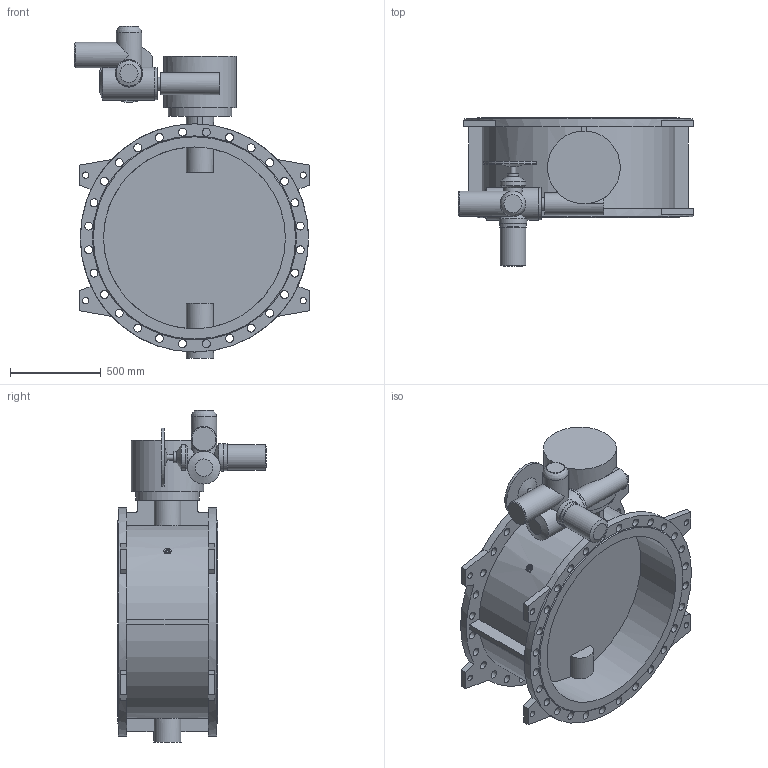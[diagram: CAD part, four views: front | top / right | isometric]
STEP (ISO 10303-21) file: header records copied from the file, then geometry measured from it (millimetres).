
FILE_DESCRIPTION(('STEP AP203'), '1');
FILE_NAME('Çàòâîð 023F.Z DN1000 PN16 + ðåäóêòîð + ÌÒ903.À30', '', ('UNSPECIFIED'), ('UNSPECIFIED'), 'ASCON STEP Converter 1.6', 'ASCON Math Kernel', '');
FILE_SCHEMA(('CONFIG_CONTROL_DESIGN'));
Length unit declared in the file: millimetre
Bounding box: 1293 x 819 x 1825 mm (x, y, z)
Volume: 224161596.1 mm3; surface area: 8848671.2 mm2
Topology: 1 solids, 1 shells, 260 faces, 644 edges, 422 vertices
Faces by surface type: cylinder 130, plane 118, cone 11, torus 1
Full cylindrical faces by diameter (mm): 14 x4, 18 x12, 23 x8, 32 x1, 35 x8, 44 x56, 60 x1, 70 x1, 100 x1, 120 x1, 140 x4, 147 x1, 150 x1, 151 x1, 175 x1, 180 x1, 350 x1, 400 x1, 1000 x2, 1255 x2
Entity records: 11448 total; most frequent: CARTESIAN_POINT 3200, DIRECTION 1287, ORIENTED_EDGE 1044, AXIS2_PLACEMENT_3D 544, EDGE_LOOP 543, EDGE_CURVE 522, VERTEX_POINT 421, FACE_BOUND 320
